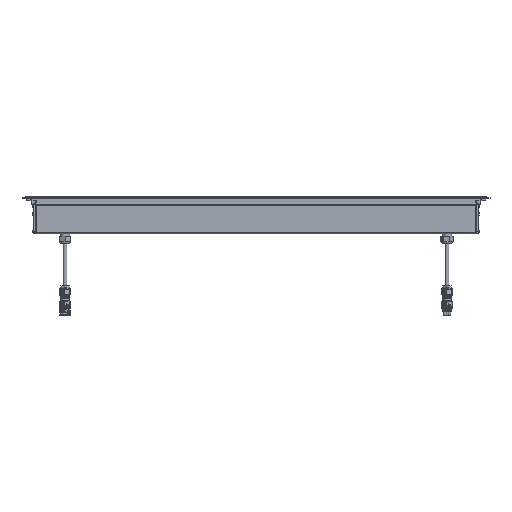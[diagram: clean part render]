
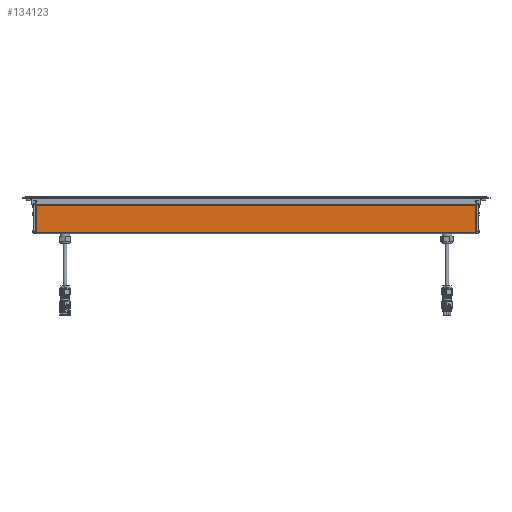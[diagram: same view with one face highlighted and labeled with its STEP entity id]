
A CAD part, left-side view. The second image highlights one B-rep face of the part: STEP entity #134123.
In plain terms, the highlighted planar face has unit normal (-1, 0, 0).
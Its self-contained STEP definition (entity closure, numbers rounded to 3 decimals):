
#12463=ORIENTED_EDGE('',*,*,#43495,.T.);
#12464=ORIENTED_EDGE('',*,*,#43072,.T.);
#12465=ORIENTED_EDGE('',*,*,#43496,.T.);
#12466=ORIENTED_EDGE('',*,*,#43497,.T.);
#43072=EDGE_CURVE('',#58640,#58639,#69029,.T.);
#43495=EDGE_CURVE('',#58970,#58640,#69291,.F.);
#43496=EDGE_CURVE('',#58639,#58971,#69292,.T.);
#43497=EDGE_CURVE('',#58971,#58970,#69293,.T.);
#58639=VERTEX_POINT('',#176214);
#58640=VERTEX_POINT('',#176216);
#58970=VERTEX_POINT('',#177120);
#58971=VERTEX_POINT('',#177122);
#69029=LINE('',#176215,#75818);
#69291=LINE('',#177119,#76080);
#69292=LINE('',#177121,#76081);
#69293=LINE('',#177123,#76082);
#75818=VECTOR('',#149721,1000.);
#76080=VECTOR('',#150431,1000.);
#76081=VECTOR('',#150432,1000.);
#76082=VECTOR('',#150433,1000.);
#82692=EDGE_LOOP('',(#12463,#12464,#12465,#12466));
#89057=FACE_BOUND('',#82692,.T.);
#95351=PLANE('',#140018);
#134123=ADVANCED_FACE('',(#89057),#95351,.F.);
#140018=AXIS2_PLACEMENT_3D('',#177118,#150429,#150430);
#149721=DIRECTION('',(0.,0.,-1.));
#150429=DIRECTION('',(1.,0.,0.));
#150430=DIRECTION('',(0.,0.,1.));
#150431=DIRECTION('',(0.,-1.,0.));
#150432=DIRECTION('',(0.,-1.,0.));
#150433=DIRECTION('',(0.,0.,1.));
#176214=CARTESIAN_POINT('',(-22.5,493.5,-74.6));
#176215=CARTESIAN_POINT('',(-22.5,493.5,-76.1));
#176216=CARTESIAN_POINT('',(-22.5,493.5,-12.136));
#177118=CARTESIAN_POINT('',(-22.5,499.5,-76.1));
#177119=CARTESIAN_POINT('',(-22.5,499.5,-12.136));
#177120=CARTESIAN_POINT('',(-22.5,-494.5,-12.136));
#177121=CARTESIAN_POINT('',(-22.5,499.5,-74.6));
#177122=CARTESIAN_POINT('',(-22.5,-494.5,-74.6));
#177123=CARTESIAN_POINT('',(-22.5,-494.5,-76.1));
